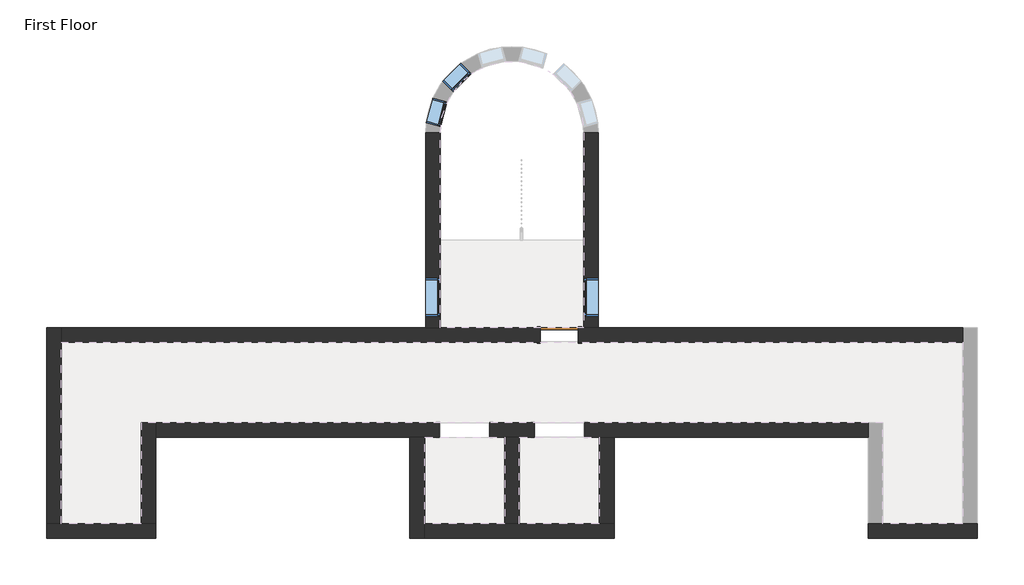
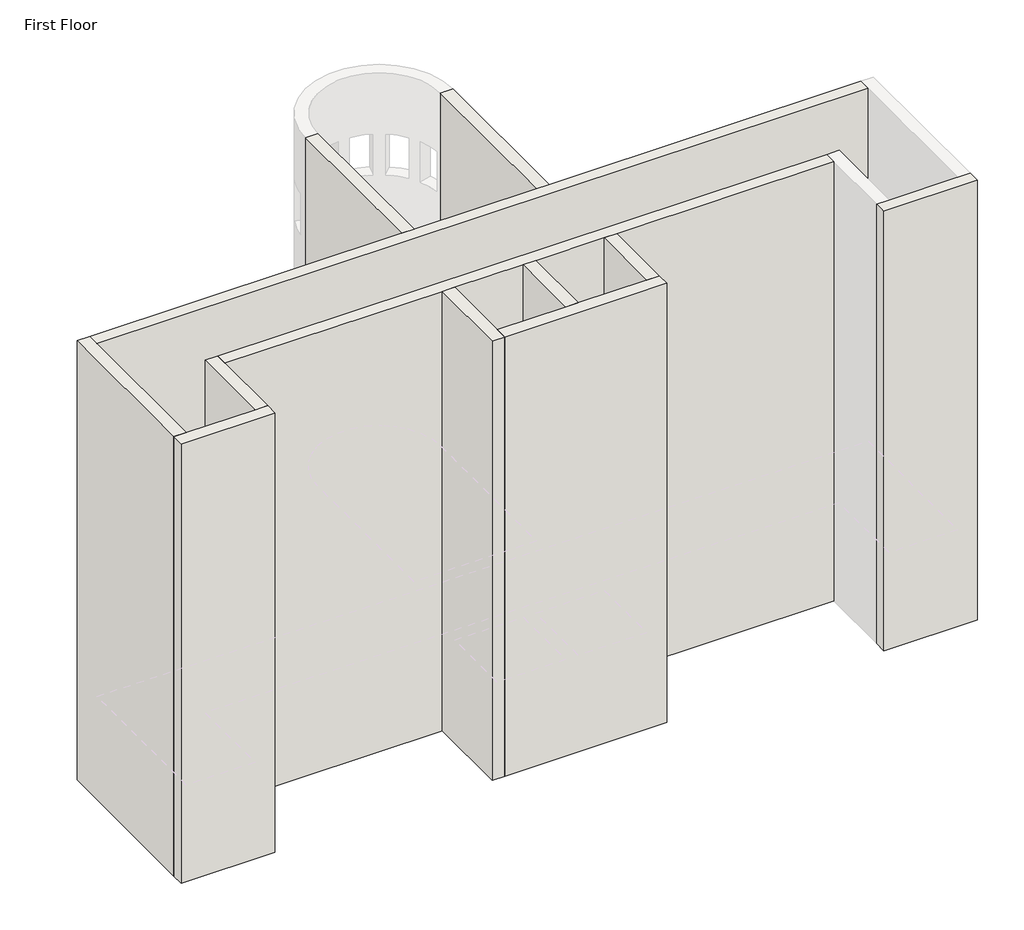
# One storey, part 1 of 5: 12 walls, 4 windows, 1 door.
"""IFC4 building model written with IfcOpenShell, lengths in millimetres."""

from ifc_helpers import new_model, si_unit, frame, origin, origin_with_axes, place, context, project, spatial, polyline, outline, extrude, faceted_brep, transform, mapped, element, save
from components import door_632be17d, window_60baf983, window_15c49d37

model = new_model("IFC4")

# Units and contexts
model_context = context("Model", 3, world=origin())
ifc_project = project(units=[si_unit("LENGTHUNIT", "METRE", prefix="MILLI")], contexts=[model_context])

# Site, building, storey
site = spatial("IfcSite", under=ifc_project)
building = spatial("IfcBuilding", under=site)
storey = spatial("IfcBuildingStorey", under=building, Name="First Floor", Elevation=0.0)

# Door
placement = place(None, origin())
door_shape = door_632be17d(model_context)
element("IfcDoor", 1, ObjectType="Single-Flush : 36\" x 84\"", at=placement, inside=storey, context=model_context, shape_type="MappedRepresentation", body=[
    mapped(door_shape, transform((-5102.6149687, 4715.9758812, 0.0), x_axis=(1.0, 0.0, 0.0), y_axis=(0.0, 1.0, 0.0), z_axis=(0.0, 0.0, 1.0))),
])

# Walls
element("IfcWall", 2, ObjectType="Exterior - Brick on Mtl. Stud", at=placement, inside=storey, context=model_context, shape_type="Brep", body=[
    faceted_brep([(-8707.8274687, 2253.7633812, 0.0), (-8707.8274687, -184.6366188, 0.0), (-8707.8274687, -184.6366188, 13106.4), (-8707.8274687, 2253.7633812, 13106.4), (-8355.4024687, 2253.7633812, 0.0), (-8355.4024687, 2253.7633812, 13106.4), (-8355.4024687, 167.7883812, 13106.4), (-8355.4024687, -184.6366188, 13106.4), (-8355.4024687, -184.6366188, 0.0), (-8355.4024687, 167.7883812, 0.0)], [[[0, 1, 2, 3]], [[4, 5, 6, 7, 8, 9]], [[1, 0, 4, 9, 8]], [[3, 2, 7, 6, 5]], [[2, 1, 8, 7]], [[0, 3, 5, 4]]]),
])
element("IfcWall", 3, ObjectType="Exterior - Brick on Mtl. Stud", at=placement, inside=storey, context=model_context, shape_type="Brep", body=[
    faceted_brep([(-8355.4024687, -184.6366188, 0.0), (-3783.4024687, -184.6366188, 0.0), (-3783.4024687, -184.6366188, 13106.4), (-8355.4024687, -184.6366188, 13106.4), (-8355.4024687, 167.7883812, 0.0), (-8355.4024687, 167.7883812, 13106.4), (-6421.8274687, 167.7883812, 13106.4), (-6069.4024687, 167.7883812, 13106.4), (-4135.8274687, 167.7883812, 13106.4), (-3783.4024687, 167.7883812, 13106.4), (-3783.4024687, 167.7883812, 0.0), (-4135.8274687, 167.7883812, 0.0), (-6069.4024687, 167.7883812, 0.0), (-6421.8274687, 167.7883812, 0.0)], [[[0, 1, 2, 3]], [[4, 5, 6, 7, 8, 9, 10, 11, 12, 13]], [[1, 0, 4, 13, 12, 11, 10]], [[3, 2, 9, 8, 7, 6, 5]], [[2, 1, 10, 9]], [[0, 3, 5, 4]]]),
])
element("IfcWall", 4, ObjectType="Exterior - Brick on Mtl. Stud", at=placement, inside=storey, context=model_context, shape_type="SweptSolid", body=[
    extrude(outline(polyline([(-3783.4024687, 2253.7633812), (-3783.4024687, 167.7883812), (-4135.8274687, 167.7883812), (-4135.8274687, 2253.7633812), (-3783.4024687, 2253.7633812)])), origin_with_axes(), (0.0, 0.0, 1.0), 13106.4),
])
element("IfcWall", 5, ObjectType="Exterior - Brick on Mtl. Stud", at=placement, inside=storey, context=model_context, shape_type="Brep", body=[
    faceted_brep([(2341.1725313, 2606.1883812, 0.0), (2341.1725313, 2253.7633812, 0.0), (-3783.4024687, 2253.7633812, 0.0), (-4135.8274687, 2253.7633812, 0.0), (-4493.0149687, 2253.7633812, 0.0), (-4493.0149687, 2606.1883812, 0.0), (-14832.4024687, 2253.7633812, 0.0), (-14832.4024687, 2606.1883812, 0.0), (-7998.2149687, 2606.1883812, 0.0), (-7998.2149687, 2253.7633812, 0.0), (-8355.4024687, 2253.7633812, 0.0), (-8707.8274687, 2253.7633812, 0.0), (-6779.0149687, 2253.7633812, 0.0), (-6779.0149687, 2606.1883812, 0.0), (-5712.2149687, 2606.1883812, 0.0), (-5712.2149687, 2253.7633812, 0.0), (-6069.4024687, 2253.7633812, 0.0), (-6421.8274687, 2253.7633812, 0.0), (-14832.4024687, 2253.7633812, 13106.4), (-8707.8274687, 2253.7633812, 13106.4), (-8355.4024687, 2253.7633812, 13106.4), (-6421.8274687, 2253.7633812, 13106.4), (-6069.4024687, 2253.7633812, 13106.4), (-4135.8274687, 2253.7633812, 13106.4), (-3783.4024687, 2253.7633812, 13106.4), (2341.1725313, 2253.7633812, 13106.4), (2341.1725313, 2606.1883812, 13106.4), (-14832.4024687, 2606.1883812, 13106.4), (-7998.2149687, 2253.7633812, 2133.6), (-6779.0149687, 2253.7633812, 2133.6), (-5712.2149687, 2253.7633812, 2133.6), (-4493.0149687, 2253.7633812, 2133.6), (-4493.0149687, 2253.7633812, 11277.6), (-4493.0149687, 2253.7633812, 9144.0), (-5712.2149687, 2253.7633812, 9144.0), (-5712.2149687, 2253.7633812, 11277.6), (-6779.0149687, 2253.7633812, 11277.6), (-6779.0149687, 2253.7633812, 9144.0), (-7998.2149687, 2253.7633812, 9144.0), (-7998.2149687, 2253.7633812, 11277.6), (-4493.0149687, 2253.7633812, 5181.6), (-4493.0149687, 2253.7633812, 3048.0), (-5712.2149687, 2253.7633812, 3048.0), (-5712.2149687, 2253.7633812, 5181.6), (-6779.0149687, 2253.7633812, 5181.6), (-6779.0149687, 2253.7633812, 3048.0), (-7998.2149687, 2253.7633812, 3048.0), (-7998.2149687, 2253.7633812, 5181.6), (-4493.0149687, 2253.7633812, 8229.6), (-4493.0149687, 2253.7633812, 6096.0), (-5712.2149687, 2253.7633812, 6096.0), (-5712.2149687, 2253.7633812, 8229.6), (-6779.0149687, 2253.7633812, 8229.6), (-6779.0149687, 2253.7633812, 6096.0), (-7998.2149687, 2253.7633812, 6096.0), (-7998.2149687, 2253.7633812, 8229.6), (-4493.0149687, 2606.1883812, 2133.6), (-5712.2149687, 2606.1883812, 2133.6), (-6779.0149687, 2606.1883812, 2133.6), (-7998.2149687, 2606.1883812, 2133.6), (-4493.0149687, 2606.1883812, 9144.0), (-4493.0149687, 2606.1883812, 11277.6), (-5712.2149687, 2606.1883812, 11277.6), (-5712.2149687, 2606.1883812, 9144.0), (-6779.0149687, 2606.1883812, 9144.0), (-6779.0149687, 2606.1883812, 11277.6), (-7998.2149687, 2606.1883812, 11277.6), (-7998.2149687, 2606.1883812, 9144.0), (-4493.0149687, 2606.1883812, 3048.0), (-4493.0149687, 2606.1883812, 5181.6), (-5712.2149687, 2606.1883812, 5181.6), (-5712.2149687, 2606.1883812, 3048.0), (-6779.0149687, 2606.1883812, 3048.0), (-6779.0149687, 2606.1883812, 5181.6), (-7998.2149687, 2606.1883812, 5181.6), (-7998.2149687, 2606.1883812, 3048.0), (-4493.0149687, 2606.1883812, 6096.0), (-4493.0149687, 2606.1883812, 8229.6), (-5712.2149687, 2606.1883812, 8229.6), (-5712.2149687, 2606.1883812, 6096.0), (-6779.0149687, 2606.1883812, 6096.0), (-6779.0149687, 2606.1883812, 8229.6), (-7998.2149687, 2606.1883812, 8229.6), (-7998.2149687, 2606.1883812, 6096.0)], [[[0, 1, 2, 3, 4, 5]], [[6, 7, 8, 9, 10, 11]], [[12, 13, 14, 15, 16, 17]], [[18, 19, 20, 21, 22, 23, 24, 25, 26, 27]], [[25, 24, 23, 22, 21, 20, 19, 18, 6, 11, 10, 9, 28, 29, 12, 17, 16, 15, 30, 31, 4, 3, 2, 1], [32, 33, 34, 35], [36, 37, 38, 39], [40, 41, 42, 43], [44, 45, 46, 47], [48, 49, 50, 51], [52, 53, 54, 55]], [[27, 26, 0, 5, 56, 57, 14, 13, 58, 59, 8, 7], [60, 61, 62, 63], [64, 65, 66, 67], [68, 69, 70, 71], [72, 73, 74, 75], [76, 77, 78, 79], [80, 81, 82, 83]], [[25, 1, 0, 26]], [[6, 18, 27, 7]], [[12, 29, 58, 13]], [[28, 9, 8, 59]], [[29, 28, 59, 58]], [[4, 31, 56, 5]], [[30, 15, 14, 57]], [[31, 30, 57, 56]], [[33, 32, 61, 60]], [[34, 33, 60, 63]], [[35, 34, 63, 62]], [[32, 35, 62, 61]], [[37, 36, 65, 64]], [[38, 37, 64, 67]], [[39, 38, 67, 66]], [[36, 39, 66, 65]], [[41, 40, 69, 68]], [[42, 41, 68, 71]], [[43, 42, 71, 70]], [[40, 43, 70, 69]], [[45, 44, 73, 72]], [[46, 45, 72, 75]], [[47, 46, 75, 74]], [[44, 47, 74, 73]], [[49, 48, 77, 76]], [[50, 49, 76, 79]], [[51, 50, 79, 78]], [[48, 51, 78, 77]], [[53, 52, 81, 80]], [[54, 53, 80, 83]], [[55, 54, 83, 82]], [[52, 55, 82, 81]]]),
])
element("IfcWall", 6, ObjectType="Exterior - Brick on Mtl. Stud", at=placement, inside=storey, context=model_context, shape_type="SweptSolid", body=[
    extrude(outline(polyline([(9592.7758812, 0.0), (4892.1883812, 0.0), (4892.1883812, 13106.4), (9592.7758812, 13106.4), (9592.7758812, 0.0)]), holes=[polyline([(5173.1758812, 2133.6), (5173.1758812, 914.4), (6087.5758812, 914.4), (6087.5758812, 2133.6), (5173.1758812, 2133.6)]), polyline([(5173.1758812, 11277.6), (5173.1758812, 10058.4), (6087.5758812, 10058.4), (6087.5758812, 11277.6), (5173.1758812, 11277.6)]), polyline([(5173.1758812, 5181.6), (5173.1758812, 3962.4), (6087.5758812, 3962.4), (6087.5758812, 5181.6), (5173.1758812, 5181.6)]), polyline([(5173.1758812, 8229.6), (5173.1758812, 7010.4), (6087.5758812, 7010.4), (6087.5758812, 8229.6), (5173.1758812, 8229.6)])]), frame((-8326.8274687, 0.0, 0.0), z_axis=(1.0, 0.0, 0.0), x_axis=(0.0, 1.0, 0.0)), (0.0, 0.0, 1.0), 352.425),
])
element("IfcWall", 7, ObjectType="Exterior - Brick on Mtl. Stud", at=placement, inside=storey, context=model_context, shape_type="Brep", body=[
    faceted_brep([(4627.1725313, 4892.1883812, 0.0), (4627.1725313, 4539.7633812, 0.0), (-4645.4149687, 4539.7633812, 0.0), (-4645.4149687, 4892.1883812, 0.0), (-4516.8274687, 4892.1883812, 0.0), (-4164.4024687, 4892.1883812, 0.0), (-17118.4024687, 4539.7633812, 0.0), (-17118.4024687, 4892.1883812, 0.0), (-8326.8274687, 4892.1883812, 0.0), (-7974.4024687, 4892.1883812, 0.0), (-5559.8149687, 4892.1883812, 0.0), (-5559.8149687, 4539.7633812, 0.0), (4627.1725313, 4892.1883812, 13106.4), (-4164.4024687, 4892.1883812, 13106.4), (-4516.8274687, 4892.1883812, 13106.4), (-7974.4024687, 4892.1883812, 13106.4), (-8326.8274687, 4892.1883812, 13106.4), (-17118.4024687, 4892.1883812, 13106.4), (-17118.4024687, 4539.7633812, 13106.4), (4627.1725313, 4539.7633812, 13106.4), (-4645.4149687, 4892.1883812, 2133.6), (-5559.8149687, 4892.1883812, 2133.6), (-5559.8149687, 4892.1883812, 9144.0), (-4645.4149687, 4892.1883812, 9144.0), (-4645.4149687, 4892.1883812, 11277.6), (-5559.8149687, 4892.1883812, 11277.6), (-5559.8149687, 4892.1883812, 3048.0), (-4645.4149687, 4892.1883812, 3048.0), (-4645.4149687, 4892.1883812, 5181.6), (-5559.8149687, 4892.1883812, 5181.6), (-5559.8149687, 4892.1883812, 6096.0), (-4645.4149687, 4892.1883812, 6096.0), (-4645.4149687, 4892.1883812, 8229.6), (-5559.8149687, 4892.1883812, 8229.6), (-5559.8149687, 4539.7633812, 2133.6), (-4645.4149687, 4539.7633812, 2133.6), (-4645.4149687, 4539.7633812, 9144.0), (-5559.8149687, 4539.7633812, 9144.0), (-5559.8149687, 4539.7633812, 11277.6), (-4645.4149687, 4539.7633812, 11277.6), (-4645.4149687, 4539.7633812, 3048.0), (-5559.8149687, 4539.7633812, 3048.0), (-5559.8149687, 4539.7633812, 5181.6), (-4645.4149687, 4539.7633812, 5181.6), (-4645.4149687, 4539.7633812, 6096.0), (-5559.8149687, 4539.7633812, 6096.0), (-5559.8149687, 4539.7633812, 8229.6), (-4645.4149687, 4539.7633812, 8229.6)], [[[0, 1, 2, 3, 4, 5]], [[6, 7, 8, 9, 10, 11]], [[12, 13, 14, 15, 16, 17, 18, 19]], [[17, 16, 15, 14, 13, 12, 0, 5, 4, 3, 20, 21, 10, 9, 8, 7], [22, 23, 24, 25], [26, 27, 28, 29], [30, 31, 32, 33]], [[19, 18, 6, 11, 34, 35, 2, 1], [36, 37, 38, 39], [40, 41, 42, 43], [44, 45, 46, 47]], [[0, 12, 19, 1]], [[17, 7, 6, 18]], [[20, 3, 2, 35]], [[21, 20, 35, 34]], [[10, 21, 34, 11]], [[23, 22, 37, 36]], [[24, 23, 36, 39]], [[25, 24, 39, 38]], [[22, 25, 38, 37]], [[27, 26, 41, 40]], [[28, 27, 40, 43]], [[29, 28, 43, 42]], [[26, 29, 42, 41]], [[31, 30, 45, 44]], [[32, 31, 44, 47]], [[33, 32, 47, 46]], [[30, 33, 46, 45]]]),
])
element("IfcWall", 8, ObjectType="Exterior - Brick on Mtl. Stud", at=placement, inside=storey, context=model_context, shape_type="SweptSolid", body=[
    extrude(outline(polyline([(9592.7758812, 0.0), (4892.1883812, 0.0), (4892.1883812, 13106.4), (9592.7758812, 13106.4), (9592.7758812, 0.0)]), holes=[polyline([(6087.5758812, 914.4), (6087.5758812, 2133.6), (5173.1758812, 2133.6), (5173.1758812, 914.4), (6087.5758812, 914.4)]), polyline([(6087.5758812, 10058.4), (6087.5758812, 11277.6), (5173.1758812, 11277.6), (5173.1758812, 10058.4), (6087.5758812, 10058.4)]), polyline([(6087.5758812, 3962.4), (6087.5758812, 5181.6), (5173.1758812, 5181.6), (5173.1758812, 3962.4), (6087.5758812, 3962.4)]), polyline([(6087.5758812, 7010.4), (6087.5758812, 8229.6), (5173.1758812, 8229.6), (5173.1758812, 7010.4), (6087.5758812, 7010.4)])]), frame((-4516.8274687, 0.0, 0.0), z_axis=(1.0, 0.0, 0.0), x_axis=(0.0, 1.0, 0.0)), (0.0, 0.0, 1.0), 352.425),
])
element("IfcWall", 9, ObjectType="Exterior - Brick on Mtl. Stud", at=placement, inside=storey, context=model_context, shape_type="SweptSolid", body=[
    extrude(outline(polyline([(-6069.4024687, 2253.7633812), (-6069.4024687, 167.7883812), (-6421.8274687, 167.7883812), (-6421.8274687, 2253.7633812), (-6069.4024687, 2253.7633812)])), origin_with_axes(), (0.0, 0.0, 1.0), 13106.4),
])
element("IfcWall", 10, ObjectType="Exterior - Brick on Mtl. Stud", at=placement, inside=storey, context=model_context, shape_type="Brep", body=[
    faceted_brep([(4979.5975313, 167.7883812, 0.0), (4627.1725313, 167.7883812, 0.0), (2693.5975313, 167.7883812, 0.0), (2341.1725313, 167.7883812, 0.0), (2341.1725313, 167.7883812, 13106.4), (2693.5975313, 167.7883812, 13106.4), (4627.1725313, 167.7883812, 13106.4), (4979.5975313, 167.7883812, 13106.4), (4979.5975313, -184.6366188, 0.0), (4979.5975313, -184.6366188, 13106.4), (2341.1725313, -184.6366188, 13106.4), (2341.1725313, -184.6366188, 0.0)], [[[0, 1, 2, 3, 4, 5, 6, 7]], [[8, 9, 10, 11]], [[3, 2, 1, 0, 8, 11]], [[7, 6, 5, 4, 10, 9]], [[4, 3, 11, 10]], [[0, 7, 9, 8]]]),
])
element("IfcWall", 11, ObjectType="Exterior - Brick on Mtl. Stud", at=placement, inside=storey, context=model_context, shape_type="Brep", body=[
    faceted_brep([(-17470.8274687, -184.6366188, 0.0), (-14832.4024687, -184.6366188, 0.0), (-14832.4024687, -184.6366188, 13106.4), (-17470.8274687, -184.6366188, 13106.4), (-17470.8274687, 167.7883812, 0.0), (-17470.8274687, 167.7883812, 13106.4), (-17118.4024687, 167.7883812, 13106.4), (-15184.8274687, 167.7883812, 13106.4), (-14832.4024687, 167.7883812, 13106.4), (-14832.4024687, 167.7883812, 0.0), (-15184.8274687, 167.7883812, 0.0), (-17118.4024687, 167.7883812, 0.0)], [[[0, 1, 2, 3]], [[4, 5, 6, 7, 8, 9, 10, 11]], [[1, 0, 4, 11, 10, 9]], [[3, 2, 8, 7, 6, 5]], [[2, 1, 9, 8]], [[0, 3, 5, 4]]]),
])
element("IfcWall", 12, ObjectType="Exterior - Brick on Mtl. Stud", at=placement, inside=storey, context=model_context, shape_type="Brep", body=[
    faceted_brep([(-15184.8274687, 2606.1883812, 0.0), (-15184.8274687, 167.7883812, 0.0), (-15184.8274687, 167.7883812, 13106.4), (-15184.8274687, 2606.1883812, 13106.4), (-14832.4024687, 2606.1883812, 0.0), (-14832.4024687, 2606.1883812, 13106.4), (-14832.4024687, 2253.7633812, 13106.4), (-14832.4024687, 167.7883812, 13106.4), (-14832.4024687, 167.7883812, 0.0), (-14832.4024687, 2253.7633812, 0.0)], [[[0, 1, 2, 3]], [[4, 5, 6, 7, 8, 9]], [[1, 0, 4, 9, 8]], [[3, 2, 7, 6, 5]], [[0, 3, 5, 4]], [[2, 1, 8, 7]]]),
])
element("IfcWall", 13, ObjectType="Exterior - Brick on Mtl. Stud", at=placement, inside=storey, context=model_context, shape_type="Brep", body=[
    faceted_brep([(-17118.4024687, 167.7883812, 0.0), (-17118.4024687, 4539.7633812, 0.0), (-17118.4024687, 4892.1883812, 0.0), (-17118.4024687, 4892.1883812, 13106.4), (-17118.4024687, 4539.7633812, 13106.4), (-17118.4024687, 167.7883812, 13106.4), (-17470.8274687, 167.7883812, 0.0), (-17470.8274687, 167.7883812, 13106.4), (-17470.8274687, 4892.1883812, 13106.4), (-17470.8274687, 4892.1883812, 0.0)], [[[0, 1, 2, 3, 4, 5]], [[6, 7, 8, 9]], [[2, 1, 0, 6, 9]], [[5, 4, 3, 8, 7]], [[3, 2, 9, 8]], [[0, 5, 7, 6]]]),
])

# Windows
window_shape = window_60baf983(model_context)
element("IfcWindow", 14, ObjectType="Fixed : 24\" x 48\"", at=placement, inside=storey, context=model_context, shape_type="MappedRepresentation", body=[
    mapped(window_shape, transform((-8072.5076754, 10048.7859441, 0.0), x_axis=(-0.2617614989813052, -0.9651325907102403, 0.0), y_axis=(0.9651325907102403, -0.2617614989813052, 0.0), z_axis=(0.0, 0.0, 1.0))),
])
element("IfcWindow", 15, ObjectType="Fixed : 24\" x 48\"", at=placement, inside=storey, context=model_context, shape_type="MappedRepresentation", body=[
    mapped(window_shape, transform((-7599.7454312, 10901.1385333, 0.0), x_axis=(-0.7092584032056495, -0.7049485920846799, 0.0), y_axis=(0.7049485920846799, -0.7092584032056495, 0.0), z_axis=(0.0, 0.0, 1.0))),
])
window_2_shape = window_15c49d37(model_context)
element("IfcWindow", 16, ObjectType="Fixed : 36\" x 48\"", at=placement, inside=storey, context=model_context, shape_type="MappedRepresentation", body=[
    mapped(window_2_shape, transform((-8150.6149687, 5592.2758812, 0.0), x_axis=(0.0, -1.0, 0.0), y_axis=(1.0, 0.0, 0.0), z_axis=(0.0, 0.0, 1.0))),
])
element("IfcWindow", 17, ObjectType="Fixed : 36\" x 48\"", at=placement, inside=storey, context=model_context, shape_type="MappedRepresentation", body=[
    mapped(window_2_shape, transform((-4340.6149687, 5668.4758812, 0.0), x_axis=(0.0, 1.0, 0.0), y_axis=(-1.0, 0.0, 0.0), z_axis=(0.0, 0.0, 1.0))),
])

save(model, "model.ifc")
